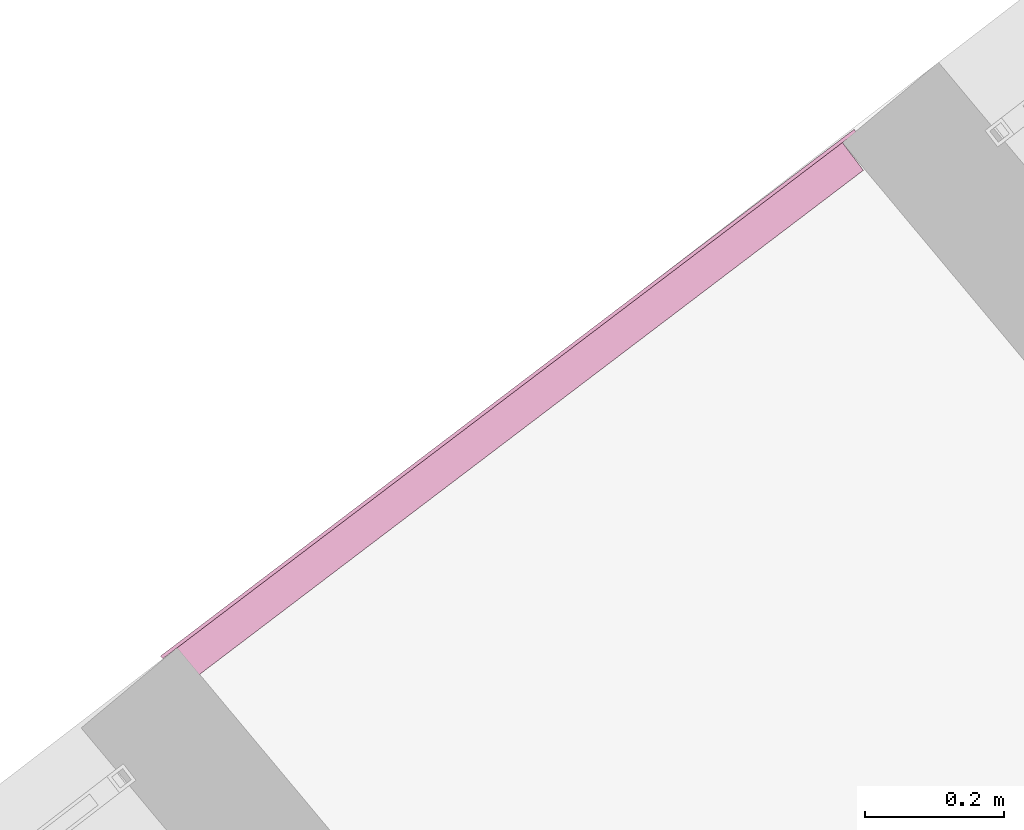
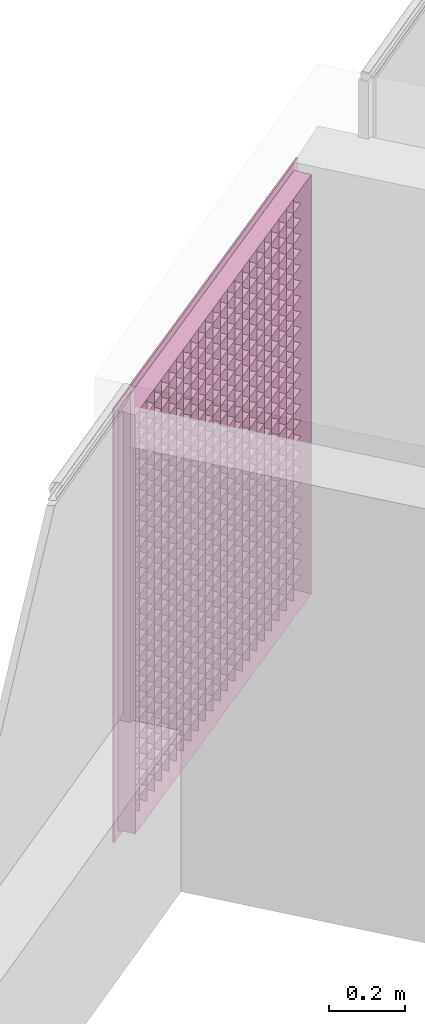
# One storey, part 67 of 67: 1 furniture element.
"""IFC4 building model written with IfcOpenShell, lengths in metres."""

from ifc_helpers import new_model, entity, si_unit, converted_unit, derived_unit, direction, frame, origin_with_axes, place, context, subcontext, project, spatial, polygons, type_object, element, save


model = new_model("IFC4")

# Units and contexts
model_context = context("Model", 3, precision=1e-05, world=origin_with_axes(), true_north=direction((0.0, 1.0)))
body_context = subcontext(model_context, "Body", "Model", "MODEL_VIEW")
ifc_project = project(units=[si_unit("LENGTHUNIT", "METRE"), si_unit("AREAUNIT", "SQUARE_METRE"), si_unit("VOLUMEUNIT", "CUBIC_METRE"), converted_unit("PLANEANGLEUNIT", "DEGREE", entity("IfcPlaneAngleMeasure", 0.0174532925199), si_unit("PLANEANGLEUNIT", "RADIAN"), dimensions=[0, 0, 0, 0, 0, 0, 0]), converted_unit("TIMEUNIT", "Year", entity("IfcTimeMeasure", 31556926.0), si_unit("TIMEUNIT", "SECOND"), dimensions=[0, 0, 1, 0, 0, 0, 0]), si_unit("MASSUNIT", "GRAM", prefix="KILO"), si_unit("THERMODYNAMICTEMPERATUREUNIT", "DEGREE_CELSIUS"), si_unit("LUMINOUSINTENSITYUNIT", "LUMEN"), si_unit("ENERGYUNIT", "JOULE", prefix="MEGA"), derived_unit("THERMALCONDUCTANCEUNIT", [(si_unit("POWERUNIT", "WATT"), 1), (si_unit("LENGTHUNIT", "METRE"), -1), (si_unit("THERMODYNAMICTEMPERATUREUNIT", "KELVIN"), -1)]), derived_unit("SPECIFICHEATCAPACITYUNIT", [(si_unit("ENERGYUNIT", "JOULE"), 1), (si_unit("MASSUNIT", "GRAM", prefix="KILO"), -1), (si_unit("THERMODYNAMICTEMPERATUREUNIT", "KELVIN"), -1)]), derived_unit("MASSDENSITYUNIT", [(si_unit("MASSUNIT", "GRAM", prefix="KILO"), 1), (si_unit("VOLUMEUNIT", "CUBIC_METRE"), -1)])], contexts=[model_context])

# Site, building, storey
site_placement = place(None, frame((-0.00153261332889, -0.00661245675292, 0.0), z_axis=(0.0, 0.0, 1.0), x_axis=(1.0, 0.0, 0.0)))
site = spatial("IfcSite", under=ifc_project, at=site_placement, Name="Site", CompositionType="ELEMENT")
building_placement = place(site_placement, origin_with_axes())
building = spatial("IfcBuilding", under=site, at=building_placement, Name="Building", CompositionType="ELEMENT")
storey_placement = place(building_placement, frame((0.0, 0.0, -0.22), z_axis=(0.0, 0.0, 1.0), x_axis=(1.0, 0.0, 0.0)))
storey = spatial("IfcBuildingStorey", under=building, at=storey_placement, Name="EG", CompositionType="ELEMENT", Elevation=-0.22)

# Furniture
furniture_type = type_object("IfcFurnitureType", Name="Seitenwand-Gitter 26", AssemblyPlace="NOTDEFINED", PredefinedType="NOTDEFINED")
furniture_placement = place(storey_placement, frame((-11.5420656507, 24.0290484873, 0.698614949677), z_axis=(0.0, 0.0, 1.0), x_axis=(-0.796395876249, -0.604775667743, 0.0)))
element("IfcFurniture", 1, at=furniture_placement, inside=storey, type_object=furniture_type, Name="Objekt-0002", PredefinedType="NOTDEFINED", context=body_context, shape_type="Tessellation", body=[
    polygons([(0.626, -0.005, -0.701), (-0.626, -0.005, -0.701), (-0.626, 0.0, -0.701), (0.626, 0.0, -0.701), (0.626, -0.005, 0.701), (-0.626, -0.005, 0.701), (0.601, -0.005, -0.676), (-0.601, -0.005, -0.676), (-0.601, -0.005, 0.676), (0.601, -0.005, 0.676), (-0.626, 0.0, 0.701), (0.626, 0.0, 0.701), (0.601, 0.0, -0.676), (0.601, 0.0, 0.676), (-0.601, 0.0, 0.676), (-0.601, 0.0, -0.676)], [[[1, 2, 3, 4]], [[1, 5, 6, 2], [7, 8, 9, 10]], [[2, 6, 11, 3]], [[4, 3, 11, 12], [13, 14, 15, 16]], [[5, 1, 4, 12]], [[6, 5, 12, 11]], [[8, 7, 13, 16]], [[9, 8, 16, 15]], [[10, 9, 15, 14]], [[7, 10, 14, 13]]], closed=True),
    polygons([(-0.6, -0.005, -0.675), (0.6, -0.005, -0.675), (0.6, 0.02, -0.675), (-0.6, 0.02, -0.675)], [[[1, 2, 3, 4]]], closed=False),
    polygons([(-0.6, -0.005, -0.625), (0.6, -0.005, -0.625), (0.6, 0.02, -0.625), (-0.6, 0.02, -0.625)], [[[1, 2, 3, 4]]], closed=False),
    polygons([(-0.6, -0.005, -0.575), (0.6, -0.005, -0.575), (0.6, 0.02, -0.575), (-0.6, 0.02, -0.575)], [[[1, 2, 3, 4]]], closed=False),
    polygons([(-0.6, -0.005, -0.525), (0.6, -0.005, -0.525), (0.6, 0.02, -0.525), (-0.6, 0.02, -0.525)], [[[1, 2, 3, 4]]], closed=False),
    polygons([(-0.6, -0.005, -0.475), (0.6, -0.005, -0.475), (0.6, 0.02, -0.475), (-0.6, 0.02, -0.475)], [[[1, 2, 3, 4]]], closed=False),
    polygons([(-0.6, -0.005, -0.425), (0.6, -0.005, -0.425), (0.6, 0.02, -0.425), (-0.6, 0.02, -0.425)], [[[1, 2, 3, 4]]], closed=False),
    polygons([(-0.6, -0.005, -0.375), (0.6, -0.005, -0.375), (0.6, 0.02, -0.375), (-0.6, 0.02, -0.375)], [[[1, 2, 3, 4]]], closed=False),
    polygons([(-0.6, -0.005, -0.325), (0.6, -0.005, -0.325), (0.6, 0.02, -0.325), (-0.6, 0.02, -0.325)], [[[1, 2, 3, 4]]], closed=False),
    polygons([(-0.6, -0.005, -0.275), (0.6, -0.005, -0.275), (0.6, 0.02, -0.275), (-0.6, 0.02, -0.275)], [[[1, 2, 3, 4]]], closed=False),
    polygons([(-0.6, -0.005, -0.225), (0.6, -0.005, -0.225), (0.6, 0.02, -0.225), (-0.6, 0.02, -0.225)], [[[1, 2, 3, 4]]], closed=False),
    polygons([(-0.6, -0.005, -0.175), (0.6, -0.005, -0.175), (0.6, 0.02, -0.175), (-0.6, 0.02, -0.175)], [[[1, 2, 3, 4]]], closed=False),
    polygons([(-0.6, -0.005, -0.125), (0.6, -0.005, -0.125), (0.6, 0.02, -0.125), (-0.6, 0.02, -0.125)], [[[1, 2, 3, 4]]], closed=False),
    polygons([(-0.6, -0.005, -0.075), (0.6, -0.005, -0.075), (0.6, 0.02, -0.075), (-0.6, 0.02, -0.075)], [[[1, 2, 3, 4]]], closed=False),
    polygons([(-0.6, -0.005, -0.025), (0.6, -0.005, -0.025), (0.6, 0.02, -0.025), (-0.6, 0.02, -0.025)], [[[1, 2, 3, 4]]], closed=False),
    polygons([(-0.6, -0.005, 0.025), (0.6, -0.005, 0.025), (0.6, 0.02, 0.025), (-0.6, 0.02, 0.025)], [[[1, 2, 3, 4]]], closed=False),
    polygons([(-0.6, -0.005, 0.075), (0.6, -0.005, 0.075), (0.6, 0.02, 0.075), (-0.6, 0.02, 0.075)], [[[1, 2, 3, 4]]], closed=False),
    polygons([(-0.6, -0.005, 0.125), (0.6, -0.005, 0.125), (0.6, 0.02, 0.125), (-0.6, 0.02, 0.125)], [[[1, 2, 3, 4]]], closed=False),
    polygons([(-0.6, -0.005, 0.175), (0.6, -0.005, 0.175), (0.6, 0.02, 0.175), (-0.6, 0.02, 0.175)], [[[1, 2, 3, 4]]], closed=False),
    polygons([(-0.6, -0.005, 0.225), (0.6, -0.005, 0.225), (0.6, 0.02, 0.225), (-0.6, 0.02, 0.225)], [[[1, 2, 3, 4]]], closed=False),
    polygons([(-0.6, -0.005, 0.275), (0.6, -0.005, 0.275), (0.6, 0.02, 0.275), (-0.6, 0.02, 0.275)], [[[1, 2, 3, 4]]], closed=False),
    polygons([(-0.6, -0.005, 0.325), (0.6, -0.005, 0.325), (0.6, 0.02, 0.325), (-0.6, 0.02, 0.325)], [[[1, 2, 3, 4]]], closed=False),
    polygons([(-0.6, -0.005, 0.375), (0.6, -0.005, 0.375), (0.6, 0.02, 0.375), (-0.6, 0.02, 0.375)], [[[1, 2, 3, 4]]], closed=False),
    polygons([(-0.6, -0.005, 0.425), (0.6, -0.005, 0.425), (0.6, 0.02, 0.425), (-0.6, 0.02, 0.425)], [[[1, 2, 3, 4]]], closed=False),
    polygons([(-0.6, -0.005, 0.475), (0.6, -0.005, 0.475), (0.6, 0.02, 0.475), (-0.6, 0.02, 0.475)], [[[1, 2, 3, 4]]], closed=False),
    polygons([(-0.6, -0.005, 0.525), (0.6, -0.005, 0.525), (0.6, 0.02, 0.525), (-0.6, 0.02, 0.525)], [[[1, 2, 3, 4]]], closed=False),
    polygons([(-0.6, -0.005, 0.575), (0.6, -0.005, 0.575), (0.6, 0.02, 0.575), (-0.6, 0.02, 0.575)], [[[1, 2, 3, 4]]], closed=False),
    polygons([(-0.6, -0.005, 0.625), (0.6, -0.005, 0.625), (0.6, 0.02, 0.625), (-0.6, 0.02, 0.625)], [[[1, 2, 3, 4]]], closed=False),
    polygons([(-0.6, -0.005, 0.675), (0.6, -0.005, 0.675), (0.6, 0.02, 0.675), (-0.6, 0.02, 0.675)], [[[1, 2, 3, 4]]], closed=False),
    polygons([(0.6, -0.005, 0.675), (0.6, -0.005, -0.675), (0.6, 0.02, -0.675), (0.6, 0.02, 0.675)], [[[1, 2, 3, 4]]], closed=False),
    polygons([(0.55, -0.005, 0.675), (0.55, -0.005, -0.675), (0.55, 0.02, -0.675), (0.55, 0.02, 0.675)], [[[1, 2, 3, 4]]], closed=False),
    polygons([(0.5, -0.005, 0.675), (0.5, -0.005, -0.675), (0.5, 0.02, -0.675), (0.5, 0.02, 0.675)], [[[1, 2, 3, 4]]], closed=False),
    polygons([(0.45, -0.005, 0.675), (0.45, -0.005, -0.675), (0.45, 0.02, -0.675), (0.45, 0.02, 0.675)], [[[1, 2, 3, 4]]], closed=False),
    polygons([(0.4, -0.005, 0.675), (0.4, -0.005, -0.675), (0.4, 0.02, -0.675), (0.4, 0.02, 0.675)], [[[1, 2, 3, 4]]], closed=False),
    polygons([(0.35, -0.005, 0.675), (0.35, -0.005, -0.675), (0.35, 0.02, -0.675), (0.35, 0.02, 0.675)], [[[1, 2, 3, 4]]], closed=False),
    polygons([(0.3, -0.005, 0.675), (0.3, -0.005, -0.675), (0.3, 0.02, -0.675), (0.3, 0.02, 0.675)], [[[1, 2, 3, 4]]], closed=False),
    polygons([(0.25, -0.005, 0.675), (0.25, -0.005, -0.675), (0.25, 0.02, -0.675), (0.25, 0.02, 0.675)], [[[1, 2, 3, 4]]], closed=False),
    polygons([(0.2, -0.005, 0.675), (0.2, -0.005, -0.675), (0.2, 0.02, -0.675), (0.2, 0.02, 0.675)], [[[1, 2, 3, 4]]], closed=False),
    polygons([(0.15, -0.005, 0.675), (0.15, -0.005, -0.675), (0.15, 0.02, -0.675), (0.15, 0.02, 0.675)], [[[1, 2, 3, 4]]], closed=False),
    polygons([(0.1, -0.005, 0.675), (0.1, -0.005, -0.675), (0.1, 0.02, -0.675), (0.1, 0.02, 0.675)], [[[1, 2, 3, 4]]], closed=False),
    polygons([(0.05, -0.005, 0.675), (0.05, -0.005, -0.675), (0.05, 0.02, -0.675), (0.05, 0.02, 0.675)], [[[1, 2, 3, 4]]], closed=False),
    polygons([(0.0, -0.005, 0.675), (0.0, -0.005, -0.675), (0.0, 0.02, -0.675), (0.0, 0.02, 0.675)], [[[1, 2, 3, 4]]], closed=False),
    polygons([(-0.05, -0.005, 0.675), (-0.05, -0.005, -0.675), (-0.05, 0.02, -0.675), (-0.05, 0.02, 0.675)], [[[1, 2, 3, 4]]], closed=False),
    polygons([(-0.1, -0.005, 0.675), (-0.1, -0.005, -0.675), (-0.1, 0.02, -0.675), (-0.1, 0.02, 0.675)], [[[1, 2, 3, 4]]], closed=False),
    polygons([(-0.15, -0.005, 0.675), (-0.15, -0.005, -0.675), (-0.15, 0.02, -0.675), (-0.15, 0.02, 0.675)], [[[1, 2, 3, 4]]], closed=False),
    polygons([(-0.2, -0.005, 0.675), (-0.2, -0.005, -0.675), (-0.2, 0.02, -0.675), (-0.2, 0.02, 0.675)], [[[1, 2, 3, 4]]], closed=False),
    polygons([(-0.25, -0.005, 0.675), (-0.25, -0.005, -0.675), (-0.25, 0.02, -0.675), (-0.25, 0.02, 0.675)], [[[1, 2, 3, 4]]], closed=False),
    polygons([(-0.3, -0.005, 0.675), (-0.3, -0.005, -0.675), (-0.3, 0.02, -0.675), (-0.3, 0.02, 0.675)], [[[1, 2, 3, 4]]], closed=False),
    polygons([(-0.35, -0.005, 0.675), (-0.35, -0.005, -0.675), (-0.35, 0.02, -0.675), (-0.35, 0.02, 0.675)], [[[1, 2, 3, 4]]], closed=False),
    polygons([(-0.4, -0.005, 0.675), (-0.4, -0.005, -0.675), (-0.4, 0.02, -0.675), (-0.4, 0.02, 0.675)], [[[1, 2, 3, 4]]], closed=False),
    polygons([(-0.45, -0.005, 0.675), (-0.45, -0.005, -0.675), (-0.45, 0.02, -0.675), (-0.45, 0.02, 0.675)], [[[1, 2, 3, 4]]], closed=False),
    polygons([(-0.5, -0.005, 0.675), (-0.5, -0.005, -0.675), (-0.5, 0.02, -0.675), (-0.5, 0.02, 0.675)], [[[1, 2, 3, 4]]], closed=False),
    polygons([(-0.55, -0.005, 0.675), (-0.55, -0.005, -0.675), (-0.55, 0.02, -0.675), (-0.55, 0.02, 0.675)], [[[1, 2, 3, 4]]], closed=False),
    polygons([(-0.6, -0.005, 0.675), (-0.6, -0.005, -0.675), (-0.6, 0.02, -0.675), (-0.6, 0.02, 0.675)], [[[1, 2, 3, 4]]], closed=False),
    polygons([(-0.601, 0.0, -0.676), (-0.601, 0.0, 0.676), (-0.601, 0.05, 0.676), (-0.601, 0.05, -0.676), (0.601, 0.0, 0.676), (0.601, 0.05, 0.676), (0.601, 0.0, -0.676), (0.601, 0.05, -0.676)], [[[1, 2, 3, 4]], [[2, 5, 6, 3]], [[7, 1, 4, 8]], [[5, 7, 8, 6]]], closed=False),
])

save(model, "model.ifc")
